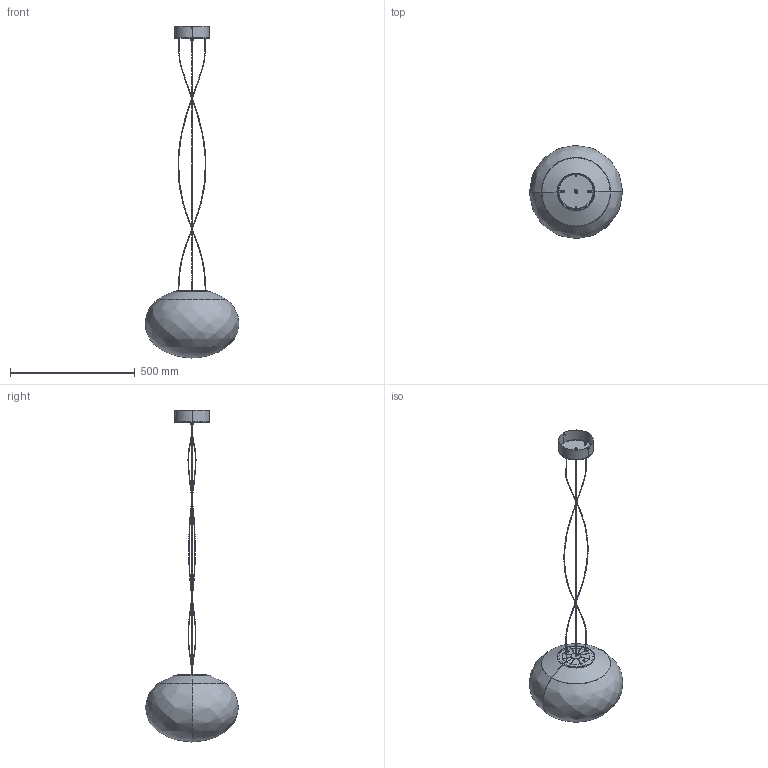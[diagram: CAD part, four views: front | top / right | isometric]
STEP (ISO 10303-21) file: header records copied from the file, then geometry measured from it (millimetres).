
FILE_DESCRIPTION(/* description */ (''),/* implementation_level */ '2;1');
FILE_NAME(/* name */ 'L065__.037.0402',/* time_stamp */ '2024-08-30T16:26:12+02:00',/* author */ (''),/* organization */ (''),/* preprocessor_version */ 'ST-DEVELOPER v16.5',/* originating_system */ '',/* authorisation */ '');
FILE_SCHEMA (('AUTOMOTIVE_DESIGN'));
Length unit declared in the file: millimetre
Products named in the file (1): Document
Bounding box: 374.59 x 375 x 1331.69 mm (x, y, z)
Volume: 1102215.7 mm3; surface area: 830498.6 mm2
Topology: 27 solids, 27 shells, 736 faces, 1905 edges, 1181 vertices
Faces by surface type: bspline 488, plane 248
Entity records: 43063 total; most frequent: CARTESIAN_POINT 32006, ORIENTED_EDGE 3738, EDGE_CURVE 1869, VERTEX_POINT 1181, B_SPLINE_CURVE_WITH_KNOTS 1034, EDGE_LOOP 800, ADVANCED_FACE 736, FACE_OUTER_BOUND 736
